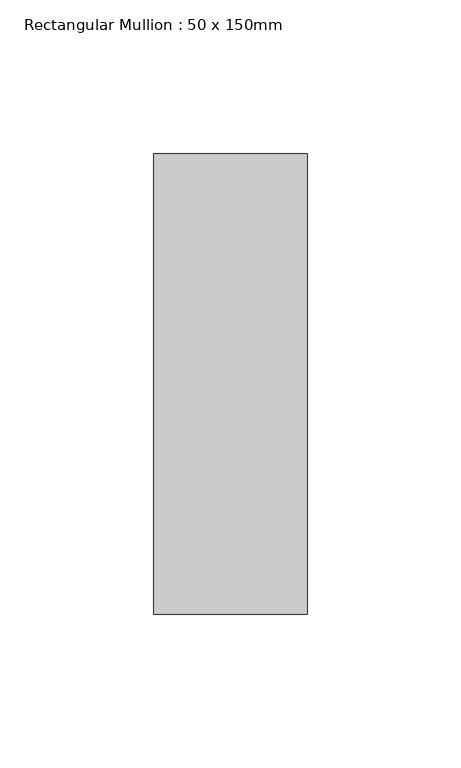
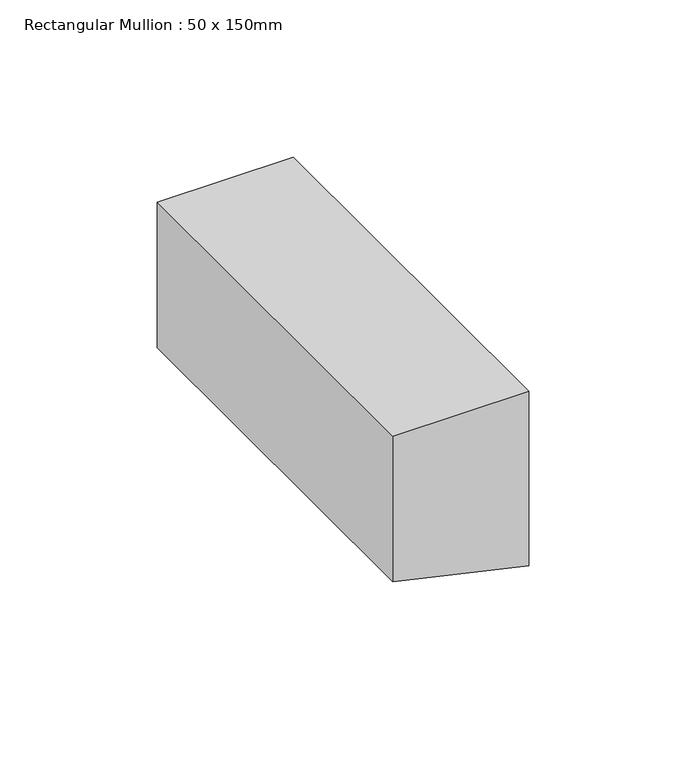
"""IFC4 building model written with IfcOpenShell, lengths in millimetres: member geometry, Rectangular Mullion : 50 x 150mm."""

import ifcopenshell
import ifcopenshell.guid

model = None  # the IFC model being written
_history = None  # IfcOwnerHistory: only IFC2X3 demands one
_inside = {}  # id of a spatial element -> (the spatial element, [elements in it])
_under = {}  # id of a project, library or spatial element -> (it, [spatial elements below it])
_declared = {}  # id of a project -> (the project, [libraries it declares])
_typed = {}  # id of a type object -> (the type object, [elements of that type])
_made_of = {}  # id of a material, layer set ... -> (it, [elements and type objects made of it])


def new_model(schema):
    """Start an empty IFC model of exactly this schema.

    Asked for "IFC4X3", IfcOpenShell would pick the latest addendum, in which some entities
    have other attributes; the version numbers below select the first issue.
    IFC2X3 requires an IfcOwnerHistory on every rooted entity: one is made here for all.
    """
    global model, _history
    if schema == "IFC4X3":
        model = ifcopenshell.file(schema_version=(4, 3, 0, 0))
    else:
        model = ifcopenshell.file(schema=schema)
    _inside.clear()
    _under.clear()
    _declared.clear()
    _typed.clear()
    _made_of.clear()
    _history = None
    if model.schema == "IFC2X3":
        org = make("IfcOrganization", Name="unknown")
        user = make(
            "IfcPersonAndOrganization",
            ThePerson=make("IfcPerson", FamilyName="unknown"),
            TheOrganization=org,
        )
        app = make(
            "IfcApplication",
            ApplicationDeveloper=org,
            Version="unknown",
            ApplicationFullName="unknown",
            ApplicationIdentifier="unknown",
        )
        _history = make(
            "IfcOwnerHistory",
            OwningUser=user,
            OwningApplication=app,
            ChangeAction="ADDED",
            CreationDate=0,
        )
    return model


def make(cls, **values):
    """One entity of the class cls with the attributes given. An attribute that is None is left unset."""
    return model.create_entity(
        cls, **{name: value for name, value in values.items() if value is not None}
    )


def rooted(cls, **values):
    """An entity with a GlobalId (a new one), such as an element, a storey or a relation."""
    return make(cls, GlobalId=ifcopenshell.guid.new(), OwnerHistory=_history, **values)


def si_unit(unit_type, name, prefix=None):
    """IfcSIUnit, for example si_unit("LENGTHUNIT", "METRE", prefix="MILLI")."""
    return make("IfcSIUnit", UnitType=unit_type, Prefix=prefix, Name=name)


def assignment(units):
    """IfcUnitAssignment: the units of a project."""
    return None if units is None else make("IfcUnitAssignment", Units=units)


def point(xyz):
    """IfcCartesianPoint."""
    return None if xyz is None else make("IfcCartesianPoint", Coordinates=xyz)


def direction(xyz):
    """IfcDirection."""
    return None if xyz is None else make("IfcDirection", DirectionRatios=xyz)


def frame(location, z_axis=None, x_axis=None):
    """IfcAxis2Placement3D, a coordinate frame: its origin and axes. An axis left out is left unset."""
    return make(
        "IfcAxis2Placement3D",
        Location=point(location),
        Axis=direction(z_axis),
        RefDirection=direction(x_axis),
    )


def origin():
    """The frame at (0, 0, 0) with its axes left unset."""
    return frame((0.0, 0.0, 0.0))


def place(relative_to, where):
    """IfcLocalPlacement: puts the frame where relative to a parent placement (None: the world)."""
    return make(
        "IfcLocalPlacement", PlacementRelTo=relative_to, RelativePlacement=where
    )


def context(
    kind, dimensions, precision=None, world=None, true_north=None, identifier=None
):
    """IfcGeometricRepresentationContext, for example the 3D "Model" context."""
    return make(
        "IfcGeometricRepresentationContext",
        ContextIdentifier=identifier,
        ContextType=kind,
        CoordinateSpaceDimension=dimensions,
        Precision=precision,
        WorldCoordinateSystem=world,
        TrueNorth=true_north,
    )


def project(units=None, contexts=None):
    """IfcProject with its units and contexts."""
    return rooted(
        "IfcProject",
        Name="project",
        RepresentationContexts=contexts,
        UnitsInContext=assignment(units),
    )


def spatial(cls, under=None, at=None, **own):
    """A site, building, storey or space (cls), placed at a placement, below another one or the project."""
    s = rooted(cls, ObjectPlacement=at, **own)
    if under is not None:
        _under.setdefault(under.id(), (under, []))[1].append(s)
    return s


def polyline(points):
    """IfcPolyline through the points."""
    return make("IfcPolyline", Points=[point(p) for p in points])


def outline(outer, holes=None, kind="AREA"):
    """IfcArbitraryClosedProfileDef: a profile drawn as a closed curve; with holes, ...WithVoids."""
    if holes is None:
        return make("IfcArbitraryClosedProfileDef", ProfileType=kind, OuterCurve=outer)
    return make(
        "IfcArbitraryProfileDefWithVoids",
        ProfileType=kind,
        OuterCurve=outer,
        InnerCurves=holes,
    )


def extrude(swept, where, along, depth):
    """IfcExtrudedAreaSolid: the profile swept, set in the frame where, extruded along a direction by depth."""
    return make(
        "IfcExtrudedAreaSolid",
        SweptArea=swept,
        Position=where,
        ExtrudedDirection=direction(along),
        Depth=depth,
    )


def shape(context_of_items, identifier, shape_type, items):
    """IfcShapeRepresentation: the items that make up one representation, for example the "Body"."""
    return make(
        "IfcShapeRepresentation",
        ContextOfItems=context_of_items,
        RepresentationIdentifier=identifier,
        RepresentationType=shape_type,
        Items=items,
    )


def source(mapping_origin, context_of_items, identifier, shape_type, items):
    """IfcRepresentationMap: a shape defined once, which mapped items show again and again."""
    return make(
        "IfcRepresentationMap",
        MappingOrigin=mapping_origin,
        MappedRepresentation=shape(context_of_items, identifier, shape_type, items),
    )


def transform(
    local_origin,
    x_axis=None,
    y_axis=None,
    z_axis=None,
    scale=None,
    scale2=None,
    scale3=None,
    uniform=True,
):
    """IfcCartesianTransformationOperator3D, or its non-uniform kind. x_axis, y_axis, z_axis: its Axis1, 2, 3."""
    if uniform:
        return make(
            "IfcCartesianTransformationOperator3D",
            Axis1=direction(x_axis),
            Axis2=direction(y_axis),
            LocalOrigin=point(local_origin),
            Scale=scale,
            Axis3=direction(z_axis),
        )
    return make(
        "IfcCartesianTransformationOperator3DnonUniform",
        Axis1=direction(x_axis),
        Axis2=direction(y_axis),
        LocalOrigin=point(local_origin),
        Scale=scale,
        Axis3=direction(z_axis),
        Scale2=scale2,
        Scale3=scale3,
    )


def mapped(mapping_source, mapping_target):
    """IfcMappedItem: shows the shape of a source again, moved by a transform."""
    return make(
        "IfcMappedItem", MappingSource=mapping_source, MappingTarget=mapping_target
    )


def made_of(thing, what):
    """Note that an element or type object is made of a material, layer set ...; save() writes the relation."""
    if what is not None:
        _made_of.setdefault(what.id(), (what, []))[1].append(thing)
    return thing


def element(
    cls,
    number,
    at=None,
    inside=None,
    cuts=None,
    type_object=None,
    material=None,
    context=None,
    identifier="Body",
    shape_type=None,
    held_by="IfcProductDefinitionShape",
    body=None,
    shapes=None,
    **own,
):
    """One element of the class cls, such as IfcWall. Its Tag is "e" and its number.

    at: its placement. inside: the storey or other place that contains it. cuts: it is an
    opening in that element (IfcRelVoidsElement). A single representation is given by context,
    identifier, shape_type and body (its items); several are given by shapes. held_by: the class
    of the entity that holds the representations. save() writes the other relations.
    """
    e = rooted(cls, Tag="e%d" % number, ObjectPlacement=at, **own)
    if body is not None:
        shapes = [shape(context, identifier, shape_type, body)]
    if shapes is not None:
        e.Representation = make(held_by, Representations=shapes)
    if inside is not None:
        _inside.setdefault(inside.id(), (inside, []))[1].append(e)
    if cuts is not None:
        rooted(
            "IfcRelVoidsElement", RelatingBuildingElement=cuts, RelatedOpeningElement=e
        )
    if type_object is not None:
        _typed.setdefault(type_object.id(), (type_object, []))[1].append(e)
    return made_of(e, material)


def aggregate(whole, parts):
    """IfcRelAggregates: a whole, such as a stair, and the parts it consists of."""
    return rooted("IfcRelAggregates", RelatingObject=whole, RelatedObjects=parts)


def save(model, path):
    """Write the relations noted so far, then the file.

    IfcRelAggregates (storeys below a building ...), IfcRelContainedInSpatialStructure (elements
    in a storey), IfcRelDefinesByType, IfcRelAssociatesMaterial and IfcRelDeclares: one each for
    every whole, place, type object, material and project.
    """
    for whole, parts in _under.values():
        aggregate(whole, parts)
    for where, things in _inside.values():
        rooted(
            "IfcRelContainedInSpatialStructure",
            RelatedElements=things,
            RelatingStructure=where,
        )
    for kind, things in _typed.values():
        rooted("IfcRelDefinesByType", RelatedObjects=things, RelatingType=kind)
    for what, things in _made_of.values():
        rooted("IfcRelAssociatesMaterial", RelatedObjects=things, RelatingMaterial=what)
    for by, libraries in _declared.values():
        rooted("IfcRelDeclares", RelatingContext=by, RelatedDefinitions=libraries)
    model.write(path)


def rectangular_mullion_50_x_150mm_c529604a(model_context):
    return source(origin(), model_context, "Body", "SweptSolid", [
        extrude(outline(polyline([(0.0, 25.0), (0.0, -25.0), (-56.5932657, -25.0), (-64.7220977, 11.0099035), (-67.8802051, 25.0), (0.0, 25.0)])), frame((0.0, -75.0, 0.0), z_axis=(0.0, 1.0, 0.0), x_axis=(0.0, 0.0, 1.0)), (0.0, 0.0, 1.0), 150.0),
    ])


if __name__ == "__main__":
    model = new_model("IFC4")
    model_context = context("Model", 3, world=origin())
    ifc_project = project(units=[si_unit("LENGTHUNIT", "METRE", prefix="MILLI")], contexts=[model_context])
    site = spatial("IfcSite", under=ifc_project)
    building = spatial("IfcBuilding", under=site)
    placement = place(None, origin())
    rectangular_mullion_50_x_150mm_shape = rectangular_mullion_50_x_150mm_c529604a(model_context)
    element("IfcMember", 1, ObjectType="Rectangular Mullion : 50 x 150mm", at=placement, inside=building, context=model_context, shape_type="MappedRepresentation", body=[
        mapped(rectangular_mullion_50_x_150mm_shape, transform((0.0, 0.0, 0.0), x_axis=(1.0, 0.0, 0.0), y_axis=(0.0, 1.0, 0.0), z_axis=(0.0, 0.0, 1.0))),
    ])
    save(model, "model.ifc")
